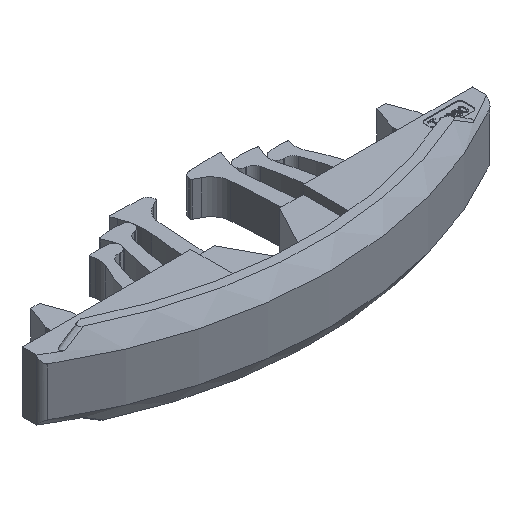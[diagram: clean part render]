
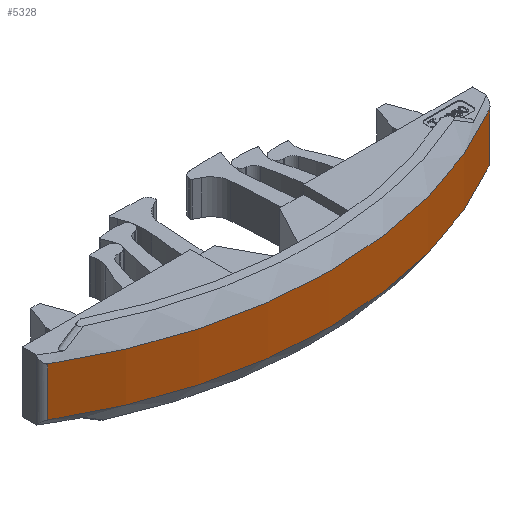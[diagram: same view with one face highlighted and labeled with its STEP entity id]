
A CAD part, isometric view. The second image highlights one B-rep face of the part: STEP entity #5328.
In plain terms, the highlighted cylindrical face has radius 50 mm (diameter 100 mm), a partial arc.
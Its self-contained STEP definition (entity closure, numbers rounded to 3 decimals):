
#168=CIRCLE('',#5649,50.);
#171=CIRCLE('',#5653,50.);
#223=CYLINDRICAL_SURFACE('',#5663,50.);
#694=LINE('',#9846,#1166);
#695=LINE('',#9848,#1167);
#1166=VECTOR('',#6762,10.);
#1167=VECTOR('',#6765,10.);
#1605=FACE_OUTER_BOUND('',#1921,.T.);
#1921=EDGE_LOOP('',(#4950,#4951,#4952,#4953));
#2618=VERTEX_POINT('',#9772);
#2619=VERTEX_POINT('',#9783);
#2623=VERTEX_POINT('',#9807);
#2624=VERTEX_POINT('',#9818);
#3386=EDGE_CURVE('',#2619,#2618,#168,.T.);
#3393=EDGE_CURVE('',#2623,#2624,#171,.T.);
#3400=EDGE_CURVE('',#2618,#2624,#694,.T.);
#3401=EDGE_CURVE('',#2619,#2623,#695,.T.);
#4950=ORIENTED_EDGE('',*,*,#3400,.T.);
#4951=ORIENTED_EDGE('',*,*,#3393,.F.);
#4952=ORIENTED_EDGE('',*,*,#3401,.F.);
#4953=ORIENTED_EDGE('',*,*,#3386,.T.);
#5328=ADVANCED_FACE('',(#1605),#223,.T.);
#5649=AXIS2_PLACEMENT_3D('',#9784,#6732,#6733);
#5653=AXIS2_PLACEMENT_3D('',#9819,#6740,#6741);
#5663=AXIS2_PLACEMENT_3D('',#9849,#6766,#6767);
#6732=DIRECTION('center_axis',(0.,0.,1.));
#6733=DIRECTION('ref_axis',(-1.,0.,0.));
#6740=DIRECTION('center_axis',(0.,0.,1.));
#6741=DIRECTION('ref_axis',(-1.,0.,0.));
#6762=DIRECTION('',(0.,0.,1.));
#6765=DIRECTION('',(0.,0.,1.));
#6766=DIRECTION('center_axis',(0.,0.,1.));
#6767=DIRECTION('ref_axis',(-1.,0.,0.));
#9772=CARTESIAN_POINT('',(25.51,6.997,-2.8));
#9783=CARTESIAN_POINT('',(-25.51,6.997,-2.8));
#9784=CARTESIAN_POINT('Origin',(0.,50.,-2.8));
#9807=CARTESIAN_POINT('',(-25.51,6.997,2.8));
#9818=CARTESIAN_POINT('',(25.51,6.997,2.8));
#9819=CARTESIAN_POINT('Origin',(0.,50.,2.8));
#9846=CARTESIAN_POINT('',(25.51,6.997,0.));
#9848=CARTESIAN_POINT('',(-25.51,6.997,0.));
#9849=CARTESIAN_POINT('Origin',(0.,50.,1.4));
